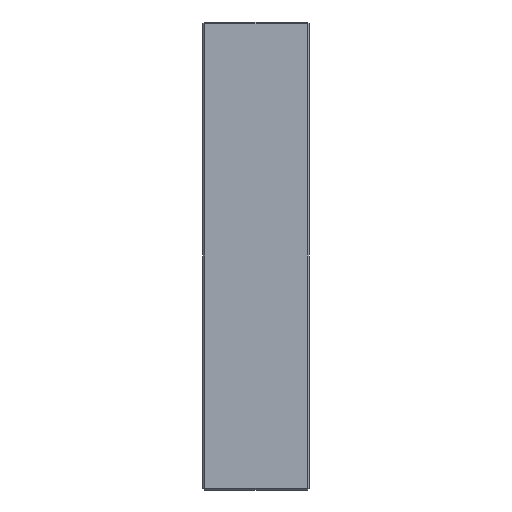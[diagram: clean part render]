
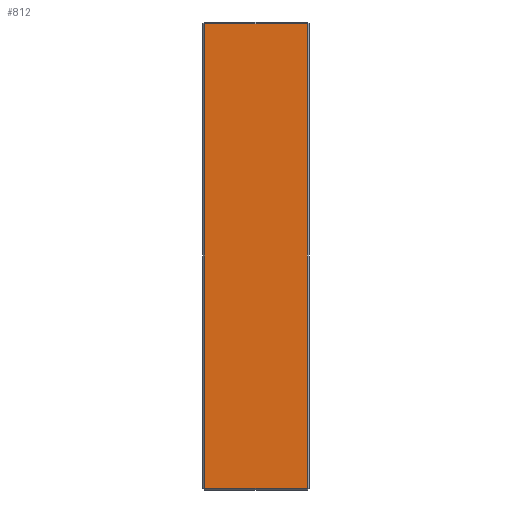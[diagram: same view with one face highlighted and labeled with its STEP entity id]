
A CAD part, left-side view. The second image highlights one B-rep face of the part: STEP entity #812.
In plain terms, the highlighted planar face has unit normal (-1, 0, 0).
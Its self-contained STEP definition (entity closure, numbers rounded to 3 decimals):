
#46 = ORIENTED_EDGE ( 'NONE', *, *, #1248, .T. ) ;
#81 = AXIS2_PLACEMENT_3D ( 'NONE', #1368, #567, #554 ) ;
#106 = VERTEX_POINT ( 'NONE', #1397 ) ;
#170 = ORIENTED_EDGE ( 'NONE', *, *, #769, .T. ) ;
#192 = LINE ( 'NONE', #1774, #257 ) ;
#257 = VECTOR ( 'NONE', #1083, 1000. ) ;
#321 = VERTEX_POINT ( 'NONE', #1348 ) ;
#354 = LINE ( 'NONE', #757, #384 ) ;
#384 = VECTOR ( 'NONE', #775, 1000. ) ;
#398 = CARTESIAN_POINT ( 'NONE',  ( -123., 1., 123. ) ) ;
#444 = LINE ( 'NONE', #398, #1890 ) ;
#454 = ORIENTED_EDGE ( 'NONE', *, *, #1753, .T. ) ;
#500 = EDGE_LOOP ( 'NONE', ( #170, #605, #46, #454 ) ) ;
#532 = DIRECTION ( 'NONE',  ( 0., 0., 1. ) ) ;
#554 = DIRECTION ( 'NONE',  ( 0., 0., -1. ) ) ;
#567 = DIRECTION ( 'NONE',  ( 1., 0., 0. ) ) ;
#605 = ORIENTED_EDGE ( 'NONE', *, *, #1179, .T. ) ;
#610 = FACE_OUTER_BOUND ( 'NONE', #500, .T. ) ;
#757 = CARTESIAN_POINT ( 'NONE',  ( -123., 56., -122. ) ) ;
#769 = EDGE_CURVE ( 'NONE', #106, #321, #1418, .T. ) ;
#775 = DIRECTION ( 'NONE',  ( 0., -1., 0. ) ) ;
#812 = ADVANCED_FACE ( 'NONE', ( #610 ), #1255, .F. ) ;
#837 = CARTESIAN_POINT ( 'NONE',  ( -123., 55., -122. ) ) ;
#1083 = DIRECTION ( 'NONE',  ( 0., 0., -1. ) ) ;
#1179 = EDGE_CURVE ( 'NONE', #321, #1895, #192, .T. ) ;
#1187 = VECTOR ( 'NONE', #1325, 1000. ) ;
#1248 = EDGE_CURVE ( 'NONE', #1895, #1356, #354, .T. ) ;
#1255 = PLANE ( 'NONE',  #81 ) ;
#1313 = CARTESIAN_POINT ( 'NONE',  ( -123., 56., 122. ) ) ;
#1325 = DIRECTION ( 'NONE',  ( 0., 1., 0. ) ) ;
#1348 = CARTESIAN_POINT ( 'NONE',  ( -123., 55., 122. ) ) ;
#1356 = VERTEX_POINT ( 'NONE', #1476 ) ;
#1368 = CARTESIAN_POINT ( 'NONE',  ( -123., 56., 123. ) ) ;
#1397 = CARTESIAN_POINT ( 'NONE',  ( -123., 1., 122. ) ) ;
#1418 = LINE ( 'NONE', #1313, #1187 ) ;
#1476 = CARTESIAN_POINT ( 'NONE',  ( -123., 1., -122. ) ) ;
#1753 = EDGE_CURVE ( 'NONE', #1356, #106, #444, .T. ) ;
#1774 = CARTESIAN_POINT ( 'NONE',  ( -123., 55., 123. ) ) ;
#1890 = VECTOR ( 'NONE', #532, 1000. ) ;
#1895 = VERTEX_POINT ( 'NONE', #837 ) ;
